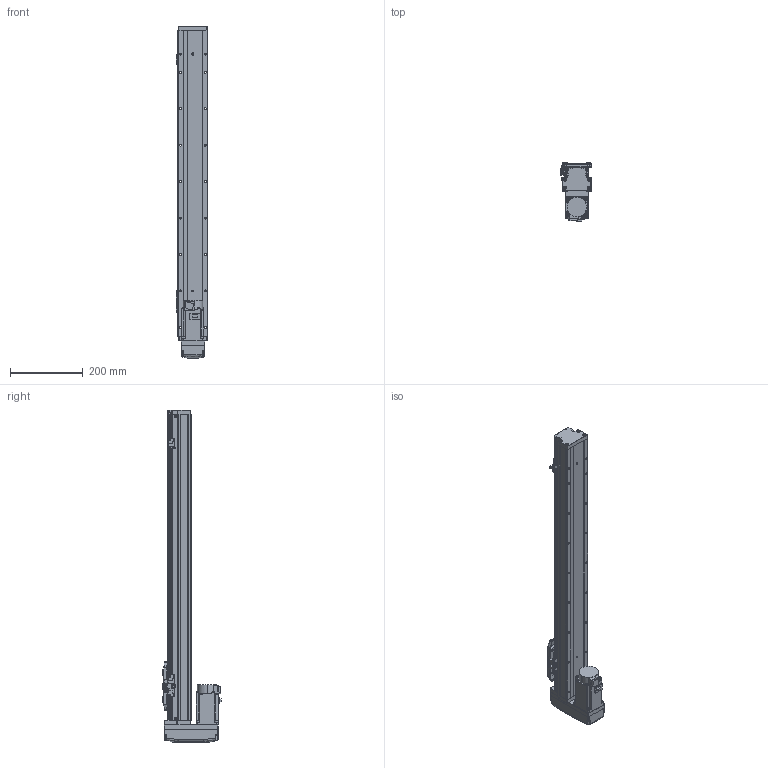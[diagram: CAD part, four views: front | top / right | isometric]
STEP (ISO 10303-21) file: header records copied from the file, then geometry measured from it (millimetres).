
FILE_DESCRIPTION (( 'STEP AP203' ), '1' );
FILE_NAME ('GTH8-650-BM-M20-C4.step', '2022-09-23T01:06:05', ( '微软用户' ), ( '微软中国' ), 'SwSTEP 2.0', 'SolidWorks 2020', '' );
FILE_SCHEMA (( 'CONFIG_CONTROL_DESIGN' ));
Length unit declared in the file: millimetre
Products named in the file (18): GTH80-003; GBT 70.1-M4×16; CTHA86-015-1_CTHA86-015-2; GTH80-004; GTH80-028; CTHA86-033_M40B; GTH80-006; GTH50-024; GTH8-650-BM-M20-C4; GTH80-013; GTH50-023; GBT 70.3-M3℅6; GBT96.1-2002 3×0.8; GTH80-022; BTH-M3X5X6; GTH80-001_650; GBT 70.1-M3℅6; hg-kn43j_-s100_
Assembly tree (57 placements, depth 2):
  GTH8-650-BM-M20-C4
    GTH80-001_650
    GTH80-003
    GTH80-004
    GTH80-006
    GTH80-013
    GBT 70.3-M3℅6  x4
    GTH80-022
    GBT 70.1-M3℅6  x14
    GBT 70.1-M4×16  x8
    GTH80-028  x2
    GTH50-024  x3
    GTH50-023  x3
    GBT96.1-2002 3×0.8  x6
    BTH-M3X5X6  x8
    hg-kn43j_-s100_
    CTHA86-015-1_CTHA86-015-2
    CTHA86-033_M40B
Bounding box: 86.9 x 160.3 x 911 mm (x, y, z)
Volume: 4626014 mm3; surface area: 480445.5 mm2
Topology: 59 solids, 59 shells, 2244 faces, 5187 edges, 3179 vertices
Faces by surface type: plane 1187, cylinder 615, cone 260, torus 166, bspline 8, sphere 8
Entity records: 41070 total; most frequent: CARTESIAN_POINT 7217, DIRECTION 6677, ORIENTED_EDGE 6192, EDGE_CURVE 3096, AXIS2_PLACEMENT_3D 2337, VECTOR 2003, LINE 2003, VERTEX_POINT 1954
